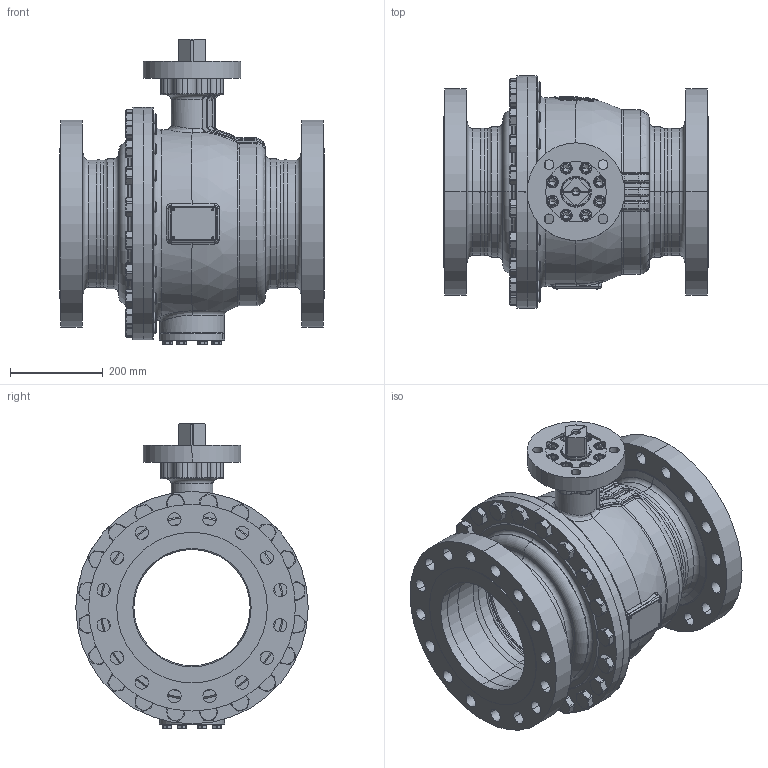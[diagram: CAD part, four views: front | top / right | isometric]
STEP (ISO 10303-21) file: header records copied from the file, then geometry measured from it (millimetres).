
FILE_DESCRIPTION((''),'2;1');
FILE_NAME('KHI-F_250_CL300-F16-4_SW0001','2026-02-05T14:02:05',('fischerkl'),('KLINGER'),'CREO PARAMETRIC BY PTC INC, 2023014','CREO PARAMETRIC BY PTC INC, 2023014','');
FILE_SCHEMA(('CONFIG_CONTROL_DESIGN'));
Products named in the file (1): KHI-F_250_CL300-F16-4_SW0001
Bounding box: 568 x 500 x 657.8 mm (x, y, z)
Volume: 27351914.7 mm3; surface area: 3676690.3 mm2
Topology: 1 solids, 4 shells, 3407 faces, 8695 edges, 5427 vertices
Faces by surface type: plane 1726, cylinder 820, cone 414, torus 308, bspline 97, sphere 42
Entity records: 140110 total; most frequent: CARTESIAN_POINT 58567, ORIENTED_EDGE 17310, DIRECTION 16810, EDGE_CURVE 8655, AXIS2_PLACEMENT_3D 6386, VERTEX_POINT 5426, VECTOR 4038, LINE 4038
